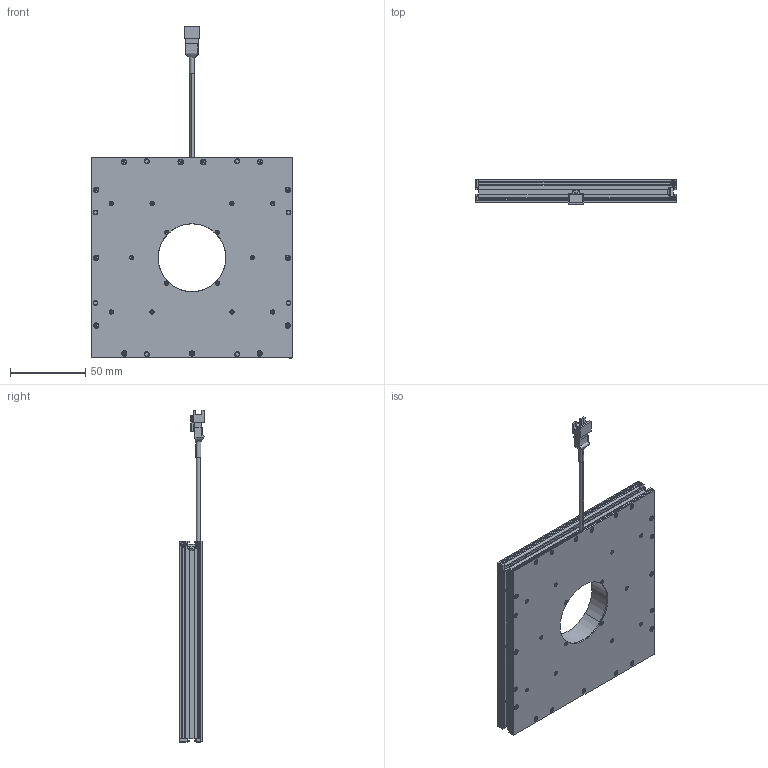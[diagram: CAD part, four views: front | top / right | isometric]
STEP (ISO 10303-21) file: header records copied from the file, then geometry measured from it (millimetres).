
FILE_DESCRIPTION (( 'STEP AP214' ), '1' );
FILE_NAME ('TMDF3016D102A_VDFHP-120120.STEP', '2023-04-12T07:30:43', ( '' ), ( '' ), 'SwSTEP 2.0', 'SolidWorks 2018', '' );
FILE_SCHEMA (( 'AUTOMOTIVE_DESIGN' ));
Length unit declared in the file: millimetre
Products named in the file (1): TMDF3016D102A_VDFHP-120120
Bounding box: 133 x 16.55 x 220.19 mm (x, y, z)
Surface area: 75931.3 mm2 (no closed solid volume)
Topology: 0 solids, 57 shells, 790 faces, 2649 edges, 1884 vertices
Faces by surface type: plane 526, cylinder 192, cone 70, bspline 2
Entity records: 38824 total; most frequent: CARTESIAN_POINT 6892, DIRECTION 4813, ORIENTED_EDGE 4320, EDGE_CURVE 2649, VECTOR 1887, LINE 1887, VERTEX_POINT 1884, AXIS2_PLACEMENT_3D 1463
